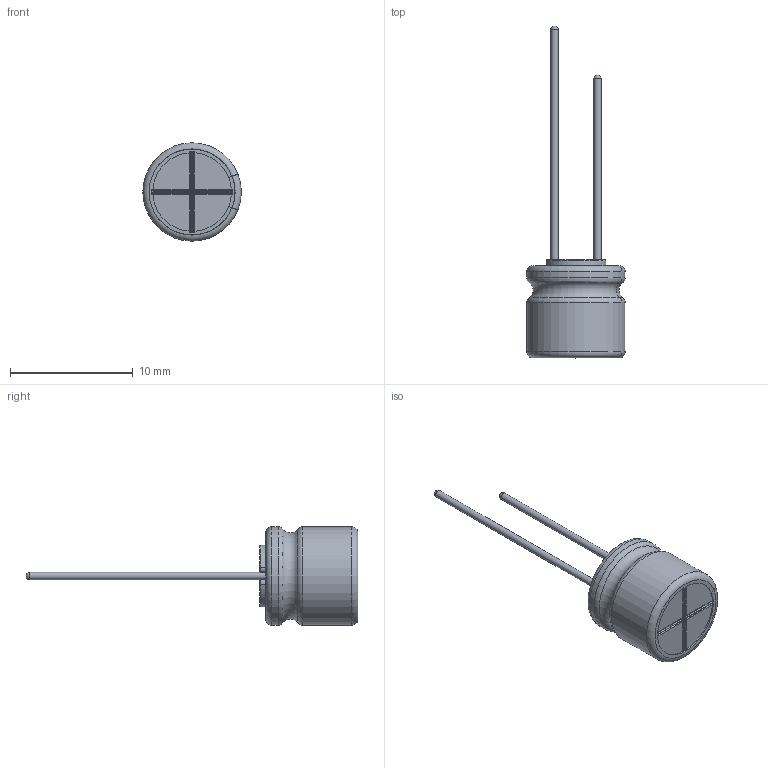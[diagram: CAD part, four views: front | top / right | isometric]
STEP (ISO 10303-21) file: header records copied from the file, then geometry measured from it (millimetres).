
FILE_DESCRIPTION(/* description */ (''),/* implementation_level */ '2;1');
FILE_NAME(/* name */ '8x8_Lead.stp',/* time_stamp */ '2017-09-05T13:52:33+09:00',/* author */ (''),/* organization */ (''),/* preprocessor_version */ 'ST-DEVELOPER v16',/* originating_system */ 'SIEMENS PLM Software NX 11.0',/* authorisation */ '');
FILE_SCHEMA (('AUTOMOTIVE_DESIGN { 1 0 10303 214 3 1 1 1 }'));
Length unit declared in the file: millimetre
Products named in the file (1): 8x8_Lead_0
Bounding box: 7.99 x 27 x 8 mm (x, y, z)
Volume: 375.3 mm3; surface area: 778.6 mm2
Topology: 3 solids, 3 shells, 115 faces, 288 edges, 181 vertices
Faces by surface type: cylinder 44, torus 33, plane 28, sphere 6, bspline 4
Full cylindrical faces by diameter (mm): 0.6 x2, 7.8 x2
Entity records: 4020 total; most frequent: CARTESIAN_POINT 680, DIRECTION 664, ORIENTED_EDGE 544, AXIS2_PLACEMENT_3D 280, EDGE_CURVE 272, VERTEX_POINT 176, CIRCLE 160, EDGE_LOOP 128
